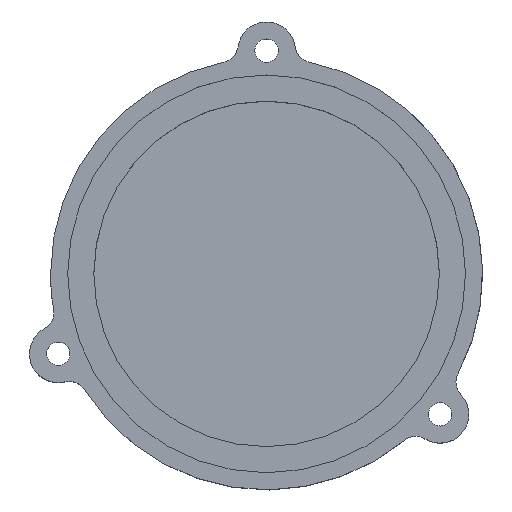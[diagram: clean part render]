
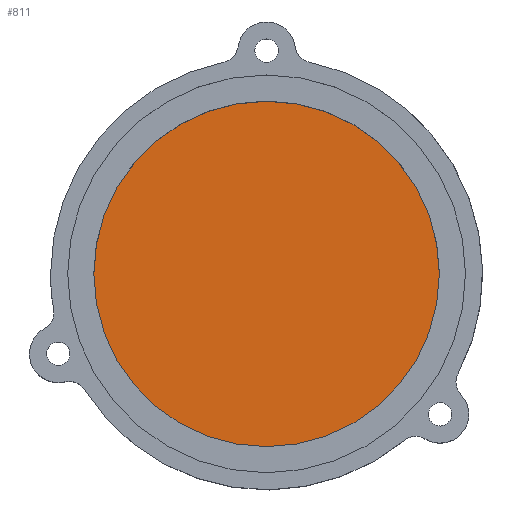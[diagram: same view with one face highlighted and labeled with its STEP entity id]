
A CAD part, top view. The second image highlights one B-rep face of the part: STEP entity #811.
In plain terms, the highlighted planar face has unit normal (0, 0, 1).
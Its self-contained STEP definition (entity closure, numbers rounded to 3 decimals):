
#182 = VERTEX_POINT ( 'NONE', #1261 ) ;
#240 = PLANE ( 'NONE',  #534 ) ;
#273 = FACE_OUTER_BOUND ( 'NONE', #276, .T. ) ;
#276 = EDGE_LOOP ( 'NONE', ( #937, #831 ) ) ;
#285 = DIRECTION ( 'NONE',  ( 0., 0., 1. ) ) ;
#306 = DIRECTION ( 'NONE',  ( 0., 0., 1. ) ) ;
#346 = CARTESIAN_POINT ( 'NONE',  ( 0., 0., 3.5 ) ) ;
#371 = CIRCLE ( 'NONE', #1029, 48. ) ;
#534 = AXIS2_PLACEMENT_3D ( 'NONE', #346, #1476, #966 ) ;
#580 = EDGE_CURVE ( 'NONE', #812, #182, #1482, .T. ) ;
#811 = ADVANCED_FACE ( 'NONE', ( #273 ), #240, .T. ) ;
#812 = VERTEX_POINT ( 'NONE', #1618 ) ;
#831 = ORIENTED_EDGE ( 'NONE', *, *, #940, .T. ) ;
#937 = ORIENTED_EDGE ( 'NONE', *, *, #580, .T. ) ;
#940 = EDGE_CURVE ( 'NONE', #182, #812, #371, .T. ) ;
#966 = DIRECTION ( 'NONE',  ( 1., 0., 0. ) ) ;
#1029 = AXIS2_PLACEMENT_3D ( 'NONE', #1032, #285, #1167 ) ;
#1032 = CARTESIAN_POINT ( 'NONE',  ( 0., 0., 3.5 ) ) ;
#1060 = DIRECTION ( 'NONE',  ( 1., 0., 0. ) ) ;
#1167 = DIRECTION ( 'NONE',  ( 1., 0., 0. ) ) ;
#1189 = CARTESIAN_POINT ( 'NONE',  ( 0., 0., 3.5 ) ) ;
#1261 = CARTESIAN_POINT ( 'NONE',  ( -48., 0., 3.5 ) ) ;
#1339 = AXIS2_PLACEMENT_3D ( 'NONE', #1189, #306, #1060 ) ;
#1476 = DIRECTION ( 'NONE',  ( 0., 0., 1. ) ) ;
#1482 = CIRCLE ( 'NONE', #1339, 48. ) ;
#1618 = CARTESIAN_POINT ( 'NONE',  ( 48., 0., 3.5 ) ) ;
